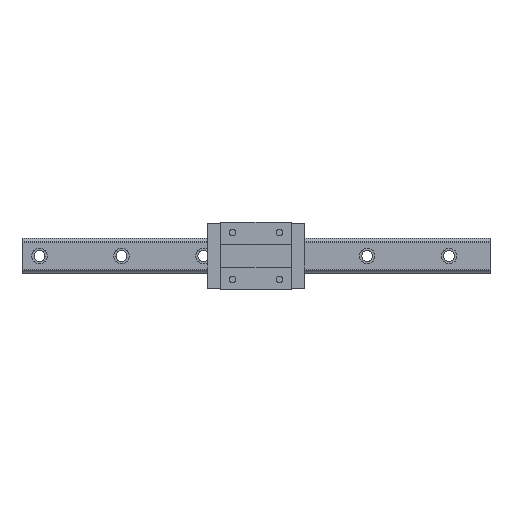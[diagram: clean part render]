
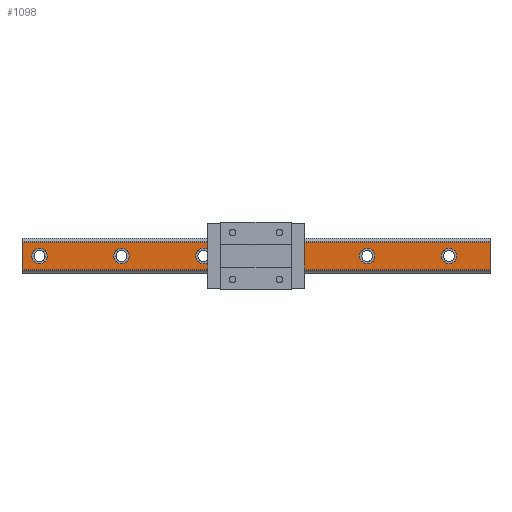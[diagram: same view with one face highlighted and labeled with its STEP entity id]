
A CAD part, top view. The second image highlights one B-rep face of the part: STEP entity #1098.
In plain terms, the highlighted planar face has unit normal (0, 0, 1).
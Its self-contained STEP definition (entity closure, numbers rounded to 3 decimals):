
#60 = CARTESIAN_POINT ( 'NONE',  ( 27.5, 0., 32. ) ) ;
#157 = CIRCLE ( 'NONE', #538, 10. ) ;
#249 = CARTESIAN_POINT ( 'NONE',  ( -77.5, 0., 32. ) ) ;
#395 = VERTEX_POINT ( 'NONE', #1441 ) ;
#443 = VERTEX_POINT ( 'NONE', #1279 ) ;
#538 = AXIS2_PLACEMENT_3D ( 'NONE', #1976, #1972, #1961 ) ;
#838 = AXIS2_PLACEMENT_3D ( 'NONE', #2519, #2512, #2508 ) ;
#842 = CIRCLE ( 'NONE', #838, 10. ) ;
#851 = EDGE_CURVE ( 'NONE', #2421, #2169, #4074, .T. ) ;
#857 = VERTEX_POINT ( 'NONE', #1920 ) ;
#877 = CARTESIAN_POINT ( 'NONE',  ( -57.5, 0., 32. ) ) ;
#985 = AXIS2_PLACEMENT_3D ( 'NONE', #3139, #3134, #3128 ) ;
#1029 = CIRCLE ( 'NONE', #985, 10. ) ;
#1069 = DIRECTION ( 'NONE',  ( 0., -1., 0. ) ) ;
#1074 = CARTESIAN_POINT ( 'NONE',  ( 300., 18., 32. ) ) ;
#1080 = LINE ( 'NONE', #1074, #2220 ) ;
#1086 = DIRECTION ( 'NONE',  ( -1., 0., 0. ) ) ;
#1090 = CARTESIAN_POINT ( 'NONE',  ( 300., 17.738, 32. ) ) ;
#1095 = LINE ( 'NONE', #1090, #1941 ) ;
#1098 = ADVANCED_FACE ( 'NONE', ( #3620, #3618, #3614, #3608, #3600, #3596, #3593 ), #3588, .F. ) ;
#1279 = CARTESIAN_POINT ( 'NONE',  ( 237.5, 0., 32. ) ) ;
#1365 = EDGE_CURVE ( 'NONE', #2148, #395, #2407, .T. ) ;
#1386 = CARTESIAN_POINT ( 'NONE',  ( 300., 17.738, 32. ) ) ;
#1441 = CARTESIAN_POINT ( 'NONE',  ( 47.5, 0., 32. ) ) ;
#1444 = EDGE_CURVE ( 'NONE', #3022, #3271, #2594, .T. ) ;
#1450 = EDGE_CURVE ( 'NONE', #3497, #3329, #2599, .T. ) ;
#1451 = EDGE_CURVE ( 'NONE', #4068, #4259, #2350, .T. ) ;
#1467 = EDGE_CURVE ( 'NONE', #395, #2148, #3039, .T. ) ;
#1471 = EDGE_CURVE ( 'NONE', #2169, #2421, #3043, .T. ) ;
#1483 = EDGE_CURVE ( 'NONE', #857, #443, #3048, .T. ) ;
#1493 = EDGE_CURVE ( 'NONE', #2468, #2262, #2453, .T. ) ;
#1501 = EDGE_CURVE ( 'NONE', #2944, #2468, #2425, .T. ) ;
#1512 = CARTESIAN_POINT ( 'NONE',  ( -162.5, 0., 32. ) ) ;
#1536 = EDGE_CURVE ( 'NONE', #3329, #3497, #2918, .T. ) ;
#1795 = VERTEX_POINT ( 'NONE', #1386 ) ;
#1834 = ORIENTED_EDGE ( 'NONE', *, *, #3001, .T. ) ;
#1873 = ORIENTED_EDGE ( 'NONE', *, *, #1444, .T. ) ;
#1879 = EDGE_CURVE ( 'NONE', #1795, #2944, #1095, .T. ) ;
#1883 = EDGE_CURVE ( 'NONE', #1795, #2262, #1080, .T. ) ;
#1893 = ORIENTED_EDGE ( 'NONE', *, *, #1536, .T. ) ;
#1907 = DIRECTION ( 'NONE',  ( 0., 0., -1. ) ) ;
#1911 = DIRECTION ( 'NONE',  ( -1., 0., 0. ) ) ;
#1920 = CARTESIAN_POINT ( 'NONE',  ( 257.5, 0., 32. ) ) ;
#1941 = VECTOR ( 'NONE', #1086, 1000. ) ;
#1961 = DIRECTION ( 'NONE',  ( -1., 0., 0. ) ) ;
#1965 = ORIENTED_EDGE ( 'NONE', *, *, #1450, .T. ) ;
#1972 = DIRECTION ( 'NONE',  ( 0., 0., -1. ) ) ;
#1976 = CARTESIAN_POINT ( 'NONE',  ( 247.5, 0., 32. ) ) ;
#1985 = ORIENTED_EDGE ( 'NONE', *, *, #2610, .T. ) ;
#2040 = ORIENTED_EDGE ( 'NONE', *, *, #1451, .T. ) ;
#2042 = CARTESIAN_POINT ( 'NONE',  ( -182.5, 0., 32. ) ) ;
#2056 = ORIENTED_EDGE ( 'NONE', *, *, #1365, .T. ) ;
#2080 = ORIENTED_EDGE ( 'NONE', *, *, #1467, .T. ) ;
#2102 = ORIENTED_EDGE ( 'NONE', *, *, #851, .T. ) ;
#2146 = ORIENTED_EDGE ( 'NONE', *, *, #1471, .T. ) ;
#2148 = VERTEX_POINT ( 'NONE', #60 ) ;
#2169 = VERTEX_POINT ( 'NONE', #4261 ) ;
#2183 = ORIENTED_EDGE ( 'NONE', *, *, #3363, .T. ) ;
#2200 = AXIS2_PLACEMENT_3D ( 'NONE', #4296, #1907, #1911 ) ;
#2204 = ORIENTED_EDGE ( 'NONE', *, *, #1483, .T. ) ;
#2220 = VECTOR ( 'NONE', #1069, 1000. ) ;
#2228 = CARTESIAN_POINT ( 'NONE',  ( -287.5, 0., 32. ) ) ;
#2243 = ORIENTED_EDGE ( 'NONE', *, *, #1493, .T. ) ;
#2262 = VERTEX_POINT ( 'NONE', #3922 ) ;
#2284 = ORIENTED_EDGE ( 'NONE', *, *, #1501, .T. ) ;
#2312 = DIRECTION ( 'NONE',  ( -1., 0., 0. ) ) ;
#2315 = DIRECTION ( 'NONE',  ( 0., 0., -1. ) ) ;
#2317 = CARTESIAN_POINT ( 'NONE',  ( -172.5, 0., 32. ) ) ;
#2322 = ORIENTED_EDGE ( 'NONE', *, *, #1879, .T. ) ;
#2350 = CIRCLE ( 'NONE', #3024, 10. ) ;
#2363 = ORIENTED_EDGE ( 'NONE', *, *, #1883, .F. ) ;
#2407 = CIRCLE ( 'NONE', #2410, 10. ) ;
#2410 = AXIS2_PLACEMENT_3D ( 'NONE', #2849, #2844, #2838 ) ;
#2418 = DIRECTION ( 'NONE',  ( 0., -1., 0. ) ) ;
#2420 = CARTESIAN_POINT ( 'NONE',  ( -300., 0., 32. ) ) ;
#2421 = VERTEX_POINT ( 'NONE', #3639 ) ;
#2425 = LINE ( 'NONE', #2420, #2593 ) ;
#2447 = DIRECTION ( 'NONE',  ( 1., 0., 0. ) ) ;
#2451 = CARTESIAN_POINT ( 'NONE',  ( 300., -17.738, 32. ) ) ;
#2453 = LINE ( 'NONE', #2451, #3084 ) ;
#2468 = VERTEX_POINT ( 'NONE', #3506 ) ;
#2484 = CARTESIAN_POINT ( 'NONE',  ( -267.5, 0., 32. ) ) ;
#2508 = DIRECTION ( 'NONE',  ( -1., 0., 0. ) ) ;
#2510 = DIRECTION ( 'NONE',  ( -1., 0., 0. ) ) ;
#2512 = DIRECTION ( 'NONE',  ( 0., 0., -1. ) ) ;
#2515 = DIRECTION ( 'NONE',  ( 0., 0., -1. ) ) ;
#2519 = CARTESIAN_POINT ( 'NONE',  ( -277.5, 0., 32. ) ) ;
#2521 = CARTESIAN_POINT ( 'NONE',  ( 247.5, 0., 32. ) ) ;
#2535 = CARTESIAN_POINT ( 'NONE',  ( -300., 17.738, 32. ) ) ;
#2546 = DIRECTION ( 'NONE',  ( -1., 0., 0. ) ) ;
#2550 = DIRECTION ( 'NONE',  ( 0., 0., -1. ) ) ;
#2554 = CARTESIAN_POINT ( 'NONE',  ( 142.5, 0., 32. ) ) ;
#2561 = DIRECTION ( 'NONE',  ( -1., 0., 0. ) ) ;
#2566 = DIRECTION ( 'NONE',  ( 0., 0., -1. ) ) ;
#2568 = CARTESIAN_POINT ( 'NONE',  ( 37.5, 0., 32. ) ) ;
#2586 = DIRECTION ( 'NONE',  ( -1., 0., 0. ) ) ;
#2589 = DIRECTION ( 'NONE',  ( 0., 0., -1. ) ) ;
#2592 = CARTESIAN_POINT ( 'NONE',  ( -67.5, 0., 32. ) ) ;
#2593 = VECTOR ( 'NONE', #2418, 1000. ) ;
#2594 = CIRCLE ( 'NONE', #2602, 10. ) ;
#2597 = DIRECTION ( 'NONE',  ( -1., 0., 0. ) ) ;
#2598 = AXIS2_PLACEMENT_3D ( 'NONE', #2609, #2605, #2597 ) ;
#2599 = CIRCLE ( 'NONE', #2598, 10. ) ;
#2602 = AXIS2_PLACEMENT_3D ( 'NONE', #2619, #2614, #2612 ) ;
#2605 = DIRECTION ( 'NONE',  ( 0., 0., -1. ) ) ;
#2609 = CARTESIAN_POINT ( 'NONE',  ( -172.5, 0., 32. ) ) ;
#2610 = EDGE_CURVE ( 'NONE', #4259, #4068, #1029, .T. ) ;
#2612 = DIRECTION ( 'NONE',  ( -1., 0., 0. ) ) ;
#2614 = DIRECTION ( 'NONE',  ( 0., 0., -1. ) ) ;
#2619 = CARTESIAN_POINT ( 'NONE',  ( -277.5, 0., 32. ) ) ;
#2797 = EDGE_LOOP ( 'NONE', ( #2146, #2102 ) ) ;
#2824 = EDGE_LOOP ( 'NONE', ( #1965, #1893 ) ) ;
#2838 = DIRECTION ( 'NONE',  ( -1., 0., 0. ) ) ;
#2844 = DIRECTION ( 'NONE',  ( 0., 0., -1. ) ) ;
#2849 = CARTESIAN_POINT ( 'NONE',  ( 37.5, 0., 32. ) ) ;
#2881 = EDGE_LOOP ( 'NONE', ( #2204, #2183 ) ) ;
#2918 = CIRCLE ( 'NONE', #2922, 10. ) ;
#2922 = AXIS2_PLACEMENT_3D ( 'NONE', #2317, #2315, #2312 ) ;
#2944 = VERTEX_POINT ( 'NONE', #2535 ) ;
#3001 = EDGE_CURVE ( 'NONE', #3271, #3022, #842, .T. ) ;
#3002 = EDGE_LOOP ( 'NONE', ( #2040, #1985 ) ) ;
#3022 = VERTEX_POINT ( 'NONE', #2484 ) ;
#3024 = AXIS2_PLACEMENT_3D ( 'NONE', #2592, #2589, #2586 ) ;
#3039 = CIRCLE ( 'NONE', #3040, 10. ) ;
#3040 = AXIS2_PLACEMENT_3D ( 'NONE', #2568, #2566, #2561 ) ;
#3043 = CIRCLE ( 'NONE', #3044, 10. ) ;
#3044 = AXIS2_PLACEMENT_3D ( 'NONE', #2554, #2550, #2546 ) ;
#3048 = CIRCLE ( 'NONE', #3076, 10. ) ;
#3076 = AXIS2_PLACEMENT_3D ( 'NONE', #2521, #2515, #2510 ) ;
#3084 = VECTOR ( 'NONE', #2447, 1000. ) ;
#3128 = DIRECTION ( 'NONE',  ( -1., 0., 0. ) ) ;
#3134 = DIRECTION ( 'NONE',  ( 0., 0., -1. ) ) ;
#3139 = CARTESIAN_POINT ( 'NONE',  ( -67.5, 0., 32. ) ) ;
#3230 = AXIS2_PLACEMENT_3D ( 'NONE', #3583, #3577, #3572 ) ;
#3271 = VERTEX_POINT ( 'NONE', #2228 ) ;
#3329 = VERTEX_POINT ( 'NONE', #2042 ) ;
#3346 = EDGE_LOOP ( 'NONE', ( #2080, #2056 ) ) ;
#3363 = EDGE_CURVE ( 'NONE', #443, #857, #157, .T. ) ;
#3497 = VERTEX_POINT ( 'NONE', #1512 ) ;
#3506 = CARTESIAN_POINT ( 'NONE',  ( -300., -17.738, 32. ) ) ;
#3515 = EDGE_LOOP ( 'NONE', ( #2363, #2322, #2284, #2243 ) ) ;
#3572 = DIRECTION ( 'NONE',  ( 0., -1., 0. ) ) ;
#3577 = DIRECTION ( 'NONE',  ( 0., 0., -1. ) ) ;
#3583 = CARTESIAN_POINT ( 'NONE',  ( 300., 0., 32. ) ) ;
#3588 = PLANE ( 'NONE',  #3230 ) ;
#3593 = FACE_BOUND ( 'NONE', #4096, .T. ) ;
#3596 = FACE_BOUND ( 'NONE', #2824, .T. ) ;
#3600 = FACE_BOUND ( 'NONE', #3002, .T. ) ;
#3608 = FACE_BOUND ( 'NONE', #3346, .T. ) ;
#3614 = FACE_BOUND ( 'NONE', #2797, .T. ) ;
#3618 = FACE_BOUND ( 'NONE', #2881, .T. ) ;
#3620 = FACE_OUTER_BOUND ( 'NONE', #3515, .T. ) ;
#3639 = CARTESIAN_POINT ( 'NONE',  ( 132.5, 0., 32. ) ) ;
#3922 = CARTESIAN_POINT ( 'NONE',  ( 300., -17.738, 32. ) ) ;
#4068 = VERTEX_POINT ( 'NONE', #877 ) ;
#4074 = CIRCLE ( 'NONE', #2200, 10. ) ;
#4096 = EDGE_LOOP ( 'NONE', ( #1873, #1834 ) ) ;
#4259 = VERTEX_POINT ( 'NONE', #249 ) ;
#4261 = CARTESIAN_POINT ( 'NONE',  ( 152.5, 0., 32. ) ) ;
#4296 = CARTESIAN_POINT ( 'NONE',  ( 142.5, 0., 32. ) ) ;
